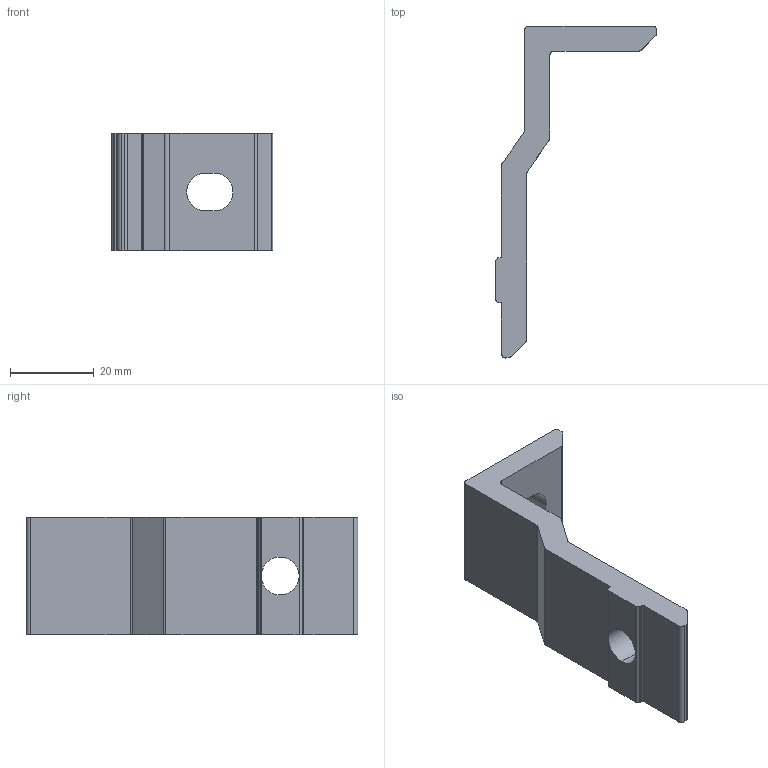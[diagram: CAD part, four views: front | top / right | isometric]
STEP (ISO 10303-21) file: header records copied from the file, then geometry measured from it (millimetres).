
FILE_DESCRIPTION (( 'STEP AP214' ), '1' );
FILE_NAME ('FGRB 22X63.step', '2017-04-05T08:05:00', ( '' ), ( '' ), 'SwSTEP 2.0', 'SolidWorks 2015', '' );
FILE_SCHEMA (( 'AUTOMOTIVE_DESIGN' ));
Length unit declared in the file: millimetre
Products named in the file (1): FGRB 22X63
Bounding box: 38.5 x 79 x 28 mm (x, y, z)
Volume: 16852.5 mm3; surface area: 7539.2 mm2
Topology: 1 solids, 1 shells, 45 faces, 129 edges, 86 vertices
Faces by surface type: cylinder 23, plane 22
Entity records: 1531 total; most frequent: DIRECTION 267, CARTESIAN_POINT 261, ORIENTED_EDGE 258, EDGE_CURVE 129, AXIS2_PLACEMENT_3D 92, VERTEX_POINT 86, VECTOR 83, LINE 83
